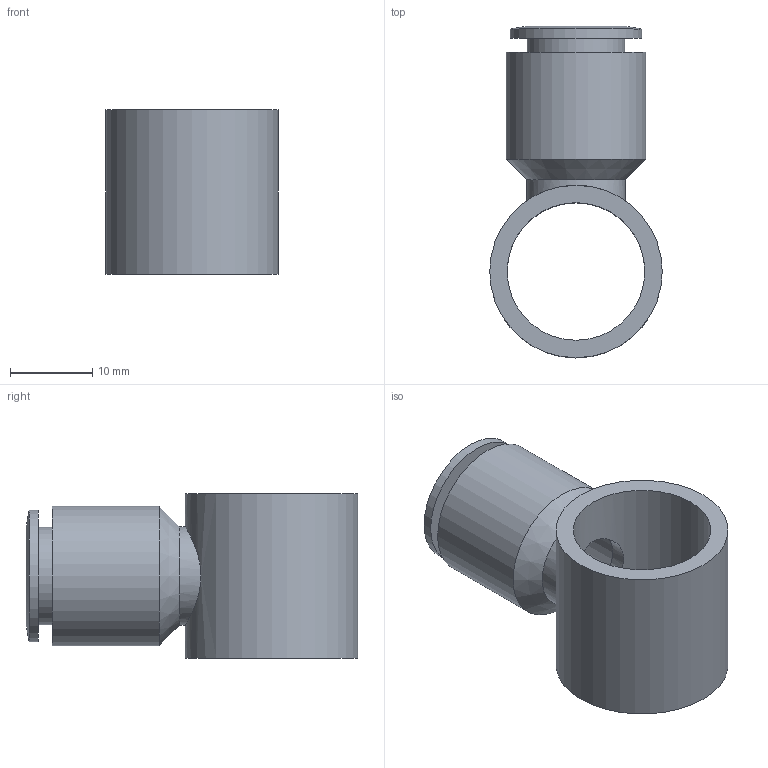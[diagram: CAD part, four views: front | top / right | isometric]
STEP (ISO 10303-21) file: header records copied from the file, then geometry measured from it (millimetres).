
FILE_DESCRIPTION((''),'2;1');
FILE_NAME('C:\Documents and Settings\rivolro1\Documenti\copia di Raccordi\PLASTICA\T13XXXX\T131038.stp','2007-10-30T17:37:47',('Rivolro1'),(''),'Autodesk Inventor 2008','Autodesk Inventor 2008','');
FILE_SCHEMA(('AUTOMOTIVE_DESIGN { 1 0 10303 214 1 1 1 1 }'));
Length unit declared in the file: millimetre
Products named in the file (1): T131038
Bounding box: 21 x 40.4 x 20 mm (x, y, z)
Volume: 4741 mm3; surface area: 4539.4 mm2
Topology: 1 solids, 1 shells, 16 faces, 27 edges, 17 vertices
Faces by surface type: cylinder 6, plane 5, bspline 3, cone 2
Full cylindrical faces by diameter (mm): 11.9 x1, 12 x1, 16 x1, 16.75 x1, 17 x1, 21 x1
Entity records: 552 total; most frequent: CARTESIAN_POINT 235, DIRECTION 58, ORIENTED_EDGE 34, EDGE_LOOP 34, AXIS2_PLACEMENT_3D 29, FACE_BOUND 18, VERTEX_POINT 17, EDGE_CURVE 17
